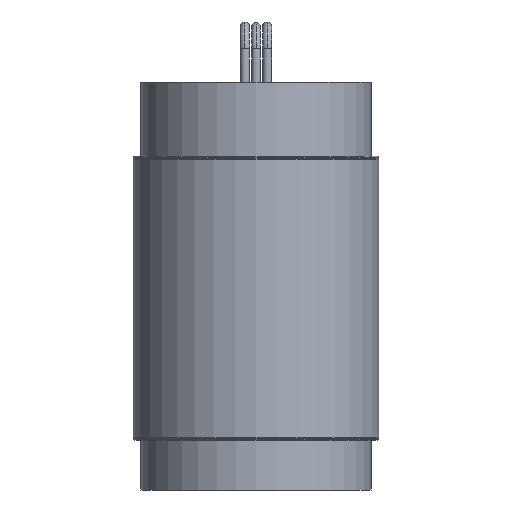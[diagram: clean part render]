
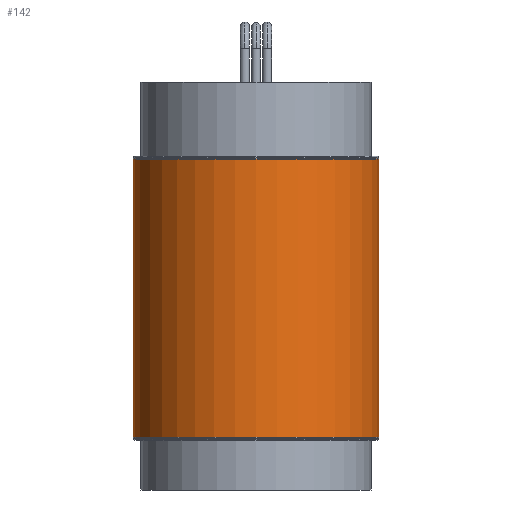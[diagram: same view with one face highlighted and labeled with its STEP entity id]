
A CAD part, front view. The second image highlights one B-rep face of the part: STEP entity #142.
In plain terms, the highlighted cylindrical face has radius 27.927 mm (diameter 55.855 mm), a partial arc.
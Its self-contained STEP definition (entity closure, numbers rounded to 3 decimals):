
#64 = ORIENTED_EDGE ( 'NONE', *, *, #220, .T. ) ;
#71 = CARTESIAN_POINT ( 'NONE',  ( -27.927, 0., 31.547 ) ) ;
#80 = ORIENTED_EDGE ( 'NONE', *, *, #574, .F. ) ;
#87 = EDGE_CURVE ( 'NONE', #1080, #1743, #1051, .T. ) ;
#106 = DIRECTION ( 'NONE',  ( 0., 0., -1. ) ) ;
#142 = ADVANCED_FACE ( 'NONE', ( #1485 ), #529, .T. ) ;
#159 = LINE ( 'NONE', #245, #2008 ) ;
#187 = CARTESIAN_POINT ( 'NONE',  ( 0., 0., -31.547 ) ) ;
#220 = EDGE_CURVE ( 'NONE', #1647, #1908, #2244, .T. ) ;
#245 = CARTESIAN_POINT ( 'NONE',  ( -27.927, 0., 31.547 ) ) ;
#306 = AXIS2_PLACEMENT_3D ( 'NONE', #1541, #106, #1044 ) ;
#355 = CARTESIAN_POINT ( 'NONE',  ( 27.927, 0., -31.547 ) ) ;
#529 = CYLINDRICAL_SURFACE ( 'NONE', #306, 27.927 ) ;
#574 = EDGE_CURVE ( 'NONE', #1743, #1908, #1536, .T. ) ;
#584 = DIRECTION ( 'NONE',  ( 0., 0., -1. ) ) ;
#595 = DIRECTION ( 'NONE',  ( 0., 0., -1. ) ) ;
#659 = ORIENTED_EDGE ( 'NONE', *, *, #87, .F. ) ;
#661 = DIRECTION ( 'NONE',  ( 0., 0., 1. ) ) ;
#818 = AXIS2_PLACEMENT_3D ( 'NONE', #1728, #661, #850 ) ;
#850 = DIRECTION ( 'NONE',  ( 1., 0., 0. ) ) ;
#1044 = DIRECTION ( 'NONE',  ( -1., 0., 0. ) ) ;
#1051 = CIRCLE ( 'NONE', #818, 27.927 ) ;
#1080 = VERTEX_POINT ( 'NONE', #71 ) ;
#1369 = VECTOR ( 'NONE', #584, 1000. ) ;
#1422 = DIRECTION ( 'NONE',  ( 1., 0., 0. ) ) ;
#1465 = CARTESIAN_POINT ( 'NONE',  ( -27.927, 0., -31.547 ) ) ;
#1485 = FACE_OUTER_BOUND ( 'NONE', #1858, .T. ) ;
#1536 = LINE ( 'NONE', #2193, #1369 ) ;
#1541 = CARTESIAN_POINT ( 'NONE',  ( 0., 0., 31.547 ) ) ;
#1550 = EDGE_CURVE ( 'NONE', #1080, #1647, #159, .T. ) ;
#1647 = VERTEX_POINT ( 'NONE', #1465 ) ;
#1704 = CARTESIAN_POINT ( 'NONE',  ( 27.927, 0., 31.547 ) ) ;
#1728 = CARTESIAN_POINT ( 'NONE',  ( 0., 0., 31.547 ) ) ;
#1743 = VERTEX_POINT ( 'NONE', #1704 ) ;
#1774 = AXIS2_PLACEMENT_3D ( 'NONE', #187, #1968, #1422 ) ;
#1796 = ORIENTED_EDGE ( 'NONE', *, *, #1550, .T. ) ;
#1858 = EDGE_LOOP ( 'NONE', ( #80, #659, #1796, #64 ) ) ;
#1908 = VERTEX_POINT ( 'NONE', #355 ) ;
#1968 = DIRECTION ( 'NONE',  ( 0., 0., 1. ) ) ;
#2008 = VECTOR ( 'NONE', #595, 1000. ) ;
#2193 = CARTESIAN_POINT ( 'NONE',  ( 27.927, 0., 31.547 ) ) ;
#2244 = CIRCLE ( 'NONE', #1774, 27.927 ) ;
